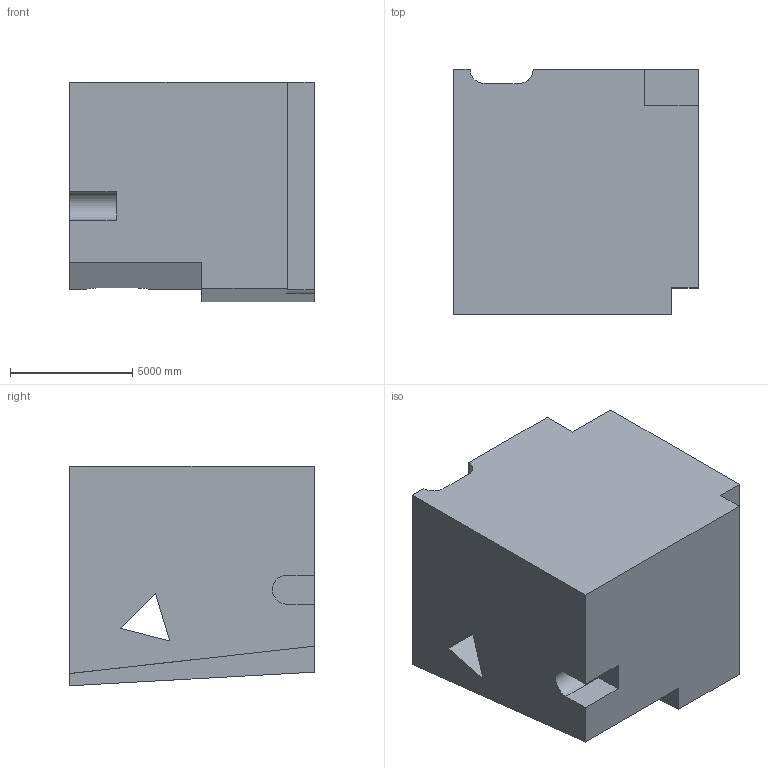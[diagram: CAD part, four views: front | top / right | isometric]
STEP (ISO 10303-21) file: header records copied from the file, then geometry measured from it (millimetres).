
FILE_DESCRIPTION (( 'STEP AP203' ), '1' );
FILE_NAME ('737.STEP', '2022-07-29T12:51:21', ( 'user' ), ( '' ), 'SwSTEP 2.0', 'SolidWorks 2021', '' );
FILE_SCHEMA (( 'CONFIG_CONTROL_DESIGN' ));
Length unit declared in the file: centimetre
Products named in the file (1): 737
Bounding box: 10000 x 10000 x 8973.97 mm (x, y, z)
Volume: 765992440039.9 mm3; surface area: 605605371.9 mm2
Topology: 1 solids, 1 shells, 27 faces, 75 edges, 50 vertices
Faces by surface type: plane 24, cylinder 3
Entity records: 934 total; most frequent: CARTESIAN_POINT 159, ORIENTED_EDGE 150, DIRECTION 133, EDGE_CURVE 75, VECTOR 69, LINE 69, VERTEX_POINT 50, AXIS2_PLACEMENT_3D 32
